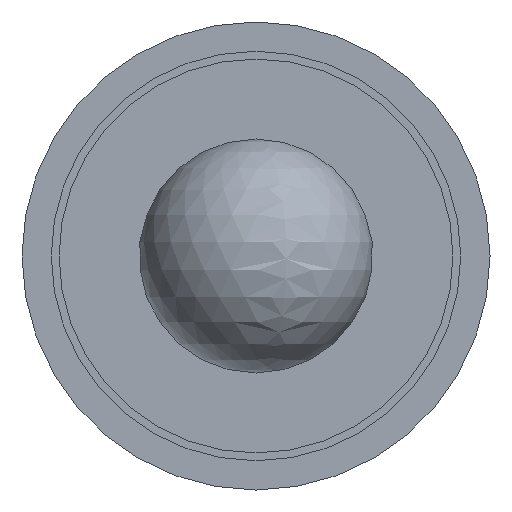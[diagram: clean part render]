
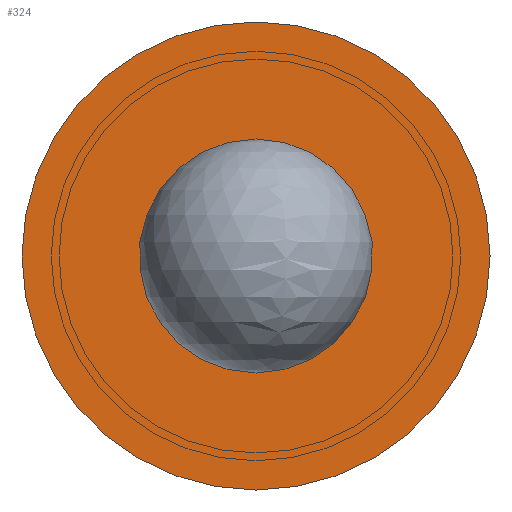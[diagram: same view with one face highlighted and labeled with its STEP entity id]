
A CAD part, front view. The second image highlights one B-rep face of the part: STEP entity #324.
In plain terms, the highlighted planar face has unit normal (0, -1, 0).
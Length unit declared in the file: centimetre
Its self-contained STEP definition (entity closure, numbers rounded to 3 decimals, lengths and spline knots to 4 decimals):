
#19=PLANE('',#362);
#37=FACE_BOUND('',#99,.T.);
#65=FACE_OUTER_BOUND('',#98,.T.);
#98=EDGE_LOOP('',(#238));
#99=EDGE_LOOP('',(#239));
#149=CIRCLE('',#361,0.75);
#150=CIRCLE('',#363,6.);
#177=VERTEX_POINT('',#540);
#178=VERTEX_POINT('',#543);
#205=EDGE_CURVE('',#177,#177,#149,.T.);
#206=EDGE_CURVE('',#178,#178,#150,.T.);
#238=ORIENTED_EDGE('',*,*,#206,.T.);
#239=ORIENTED_EDGE('',*,*,#205,.T.);
#324=ADVANCED_FACE('',(#65,#37),#19,.F.);
#361=AXIS2_PLACEMENT_3D('',#541,#430,#431);
#362=AXIS2_PLACEMENT_3D('',#542,#432,#433);
#363=AXIS2_PLACEMENT_3D('',#544,#434,#435);
#430=DIRECTION('center_axis',(0.,1.,0.));
#431=DIRECTION('ref_axis',(1.,0.,0.));
#432=DIRECTION('center_axis',(0.,1.,0.));
#433=DIRECTION('ref_axis',(0.,0.,1.));
#434=DIRECTION('center_axis',(0.,-1.,0.));
#435=DIRECTION('ref_axis',(1.,0.,0.));
#540=CARTESIAN_POINT('',(0.4,307.,0.6344));
#541=CARTESIAN_POINT('Origin',(0.,307.,0.));
#542=CARTESIAN_POINT('Origin',(0.,307.,0.));
#543=CARTESIAN_POINT('',(-6.,307.,0.));
#544=CARTESIAN_POINT('Origin',(0.,307.,0.));
